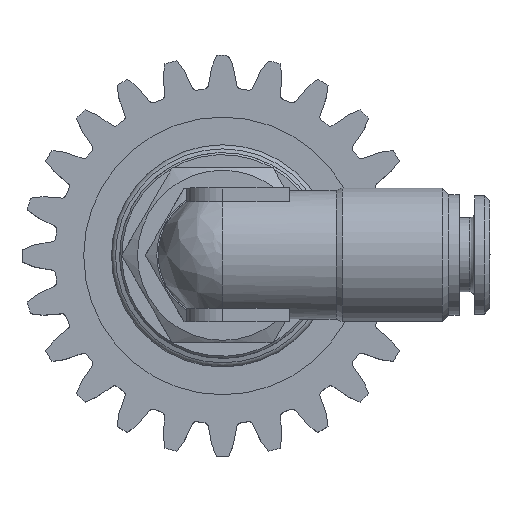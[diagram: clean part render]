
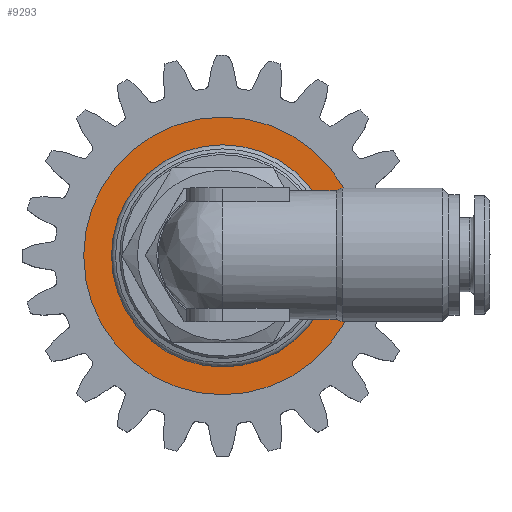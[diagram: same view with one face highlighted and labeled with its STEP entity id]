
A CAD part, top view. The second image highlights one B-rep face of the part: STEP entity #9293.
In plain terms, the highlighted planar face has unit normal (0, 0, 1) as drawn and (0, 1, 0) by its records, which use the part's own axes.
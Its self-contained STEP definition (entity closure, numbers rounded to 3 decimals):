
#948 = CIRCLE ( 'NONE', #4479, 10.8 ) ;
#3016 = EDGE_CURVE ( 'NONE', #5635, #5635, #948, .T. ) ;
#3282 = VERTEX_POINT ( 'NONE', #27339 ) ;
#4479 = AXIS2_PLACEMENT_3D ( 'NONE', #26199, #30787, #9542 ) ;
#5635 = VERTEX_POINT ( 'NONE', #19640 ) ;
#6047 = CARTESIAN_POINT ( 'NONE',  ( 0., 0.6, 0. ) ) ;
#7209 = EDGE_CURVE ( 'NONE', #3282, #3282, #12110, .T. ) ;
#8263 = DIRECTION ( 'NONE',  ( 0., 1., 0. ) ) ;
#8735 = DIRECTION ( 'NONE',  ( 0., 0., -1. ) ) ;
#9293 = ADVANCED_FACE ( 'NONE', ( #28377, #16411 ), #25850, .F. ) ;
#9542 = DIRECTION ( 'NONE',  ( 0., 0., 1. ) ) ;
#12110 = CIRCLE ( 'NONE', #29704, 13.5 ) ;
#14066 = CARTESIAN_POINT ( 'NONE',  ( 13.5, 0.6, 0. ) ) ;
#16411 = FACE_OUTER_BOUND ( 'NONE', #26896, .T. ) ;
#17849 = DIRECTION ( 'NONE',  ( 0., 0., 1. ) ) ;
#18716 = EDGE_LOOP ( 'NONE', ( #28469 ) ) ;
#19640 = CARTESIAN_POINT ( 'NONE',  ( 0., 0.6, 10.8 ) ) ;
#25850 = PLANE ( 'NONE',  #26296 ) ;
#26199 = CARTESIAN_POINT ( 'NONE',  ( 0., 0.6, 0. ) ) ;
#26246 = ORIENTED_EDGE ( 'NONE', *, *, #7209, .T. ) ;
#26296 = AXIS2_PLACEMENT_3D ( 'NONE', #14066, #28223, #8735 ) ;
#26896 = EDGE_LOOP ( 'NONE', ( #26246 ) ) ;
#27339 = CARTESIAN_POINT ( 'NONE',  ( 0., 0.6, 13.5 ) ) ;
#28223 = DIRECTION ( 'NONE',  ( 0., -1., 0. ) ) ;
#28377 = FACE_BOUND ( 'NONE', #18716, .T. ) ;
#28469 = ORIENTED_EDGE ( 'NONE', *, *, #3016, .F. ) ;
#29704 = AXIS2_PLACEMENT_3D ( 'NONE', #6047, #8263, #17849 ) ;
#30787 = DIRECTION ( 'NONE',  ( 0., 1., 0. ) ) ;
